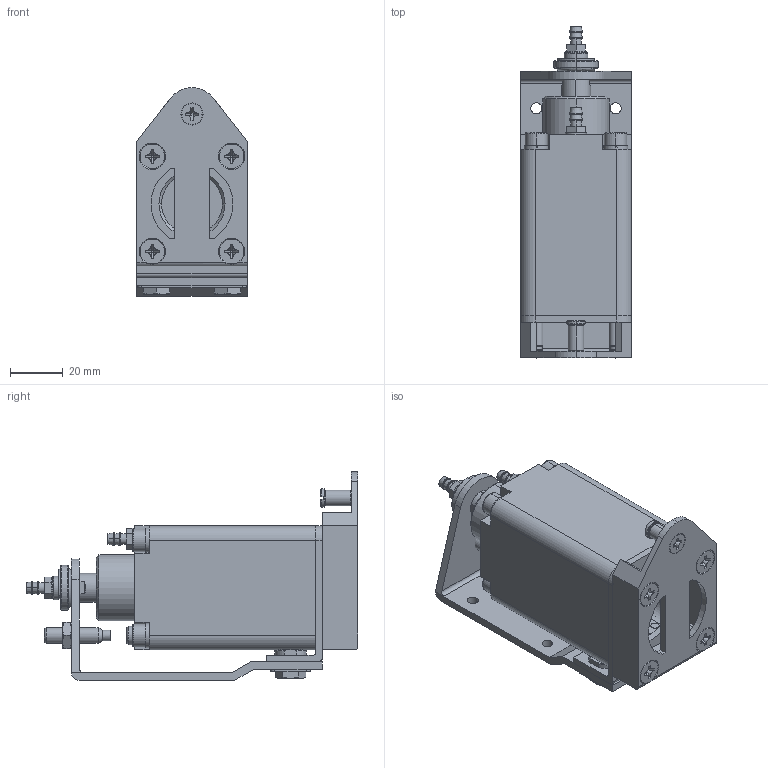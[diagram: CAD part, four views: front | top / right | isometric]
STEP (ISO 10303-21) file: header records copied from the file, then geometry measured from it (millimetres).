
FILE_DESCRIPTION (( 'STEP AP214' ), '1' );
FILE_NAME ('GT-NY25.STEP', '2019-11-26T09:00:12', ( '微软用户' ), ( '微软中国' ), 'SwSTEP 2.0', 'SolidWorks 2016', '' );
FILE_SCHEMA (( 'AUTOMOTIVE_DESIGN' ));
Length unit declared in the file: millimetre
Products named in the file (1): GT-NY25
Bounding box: 42 x 125.6 x 79 mm (x, y, z)
Surface area: 51768 mm2 (no closed solid volume)
Topology: 0 solids, 33 shells, 897 faces, 2216 edges, 1414 vertices
Faces by surface type: plane 412, cylinder 276, cone 123, bspline 86
Entity records: 41387 total; most frequent: CARTESIAN_POINT 10479, ORIENTED_EDGE 4351, DIRECTION 4197, EDGE_CURVE 2206, AXIS2_PLACEMENT_3D 1588, VERTEX_POINT 1414, LINE 1021, VECTOR 1021
